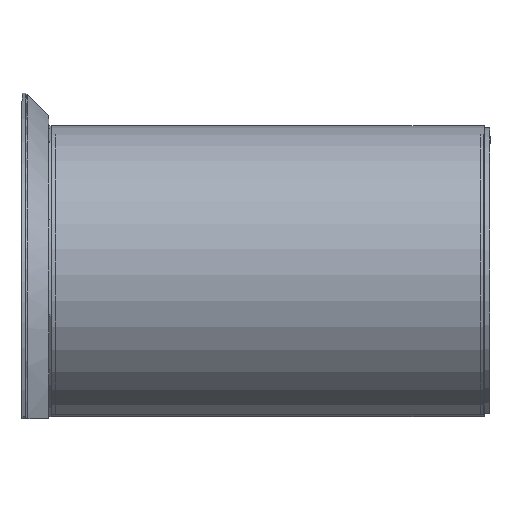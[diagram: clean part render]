
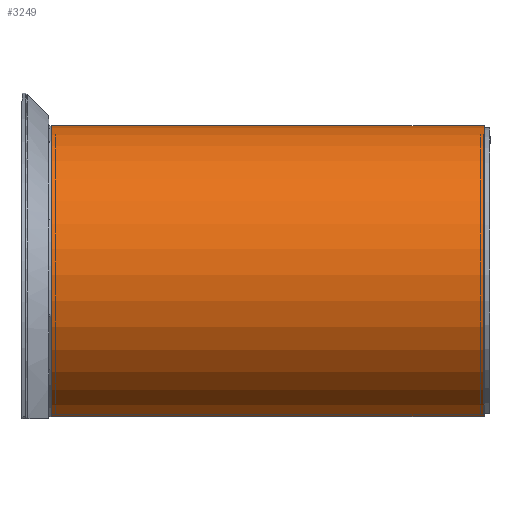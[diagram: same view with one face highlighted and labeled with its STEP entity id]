
A CAD part, left-side view. The second image highlights one B-rep face of the part: STEP entity #3249.
In plain terms, the highlighted cylindrical face has radius 230 mm (diameter 460 mm), a partial arc.
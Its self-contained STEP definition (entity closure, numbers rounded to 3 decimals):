
#197 = CARTESIAN_POINT ( 'NONE',  ( 2., 665., 0. ) ) ;
#233 = CARTESIAN_POINT ( 'NONE',  ( 2., 0., 230. ) ) ;
#422 = DIRECTION ( 'NONE',  ( 0., -1., 0. ) ) ;
#965 = DIRECTION ( 'NONE',  ( 0., 0., 1. ) ) ;
#1269 = EDGE_CURVE ( 'NONE', #4167, #2493, #4498, .T. ) ;
#1296 = EDGE_CURVE ( 'NONE', #5389, #2493, #6514, .T. ) ;
#1445 = EDGE_LOOP ( 'NONE', ( #8042, #6322, #2607, #5835 ) ) ;
#1609 = LINE ( 'NONE', #4333, #3704 ) ;
#1897 = CIRCLE ( 'NONE', #2174, 230. ) ;
#1946 = DIRECTION ( 'NONE',  ( 0., -1., 0. ) ) ;
#1958 = CARTESIAN_POINT ( 'NONE',  ( 2., 665., 230. ) ) ;
#2174 = AXIS2_PLACEMENT_3D ( 'NONE', #197, #2176, #5378 ) ;
#2176 = DIRECTION ( 'NONE',  ( 0., 1., 0. ) ) ;
#2480 = DIRECTION ( 'NONE',  ( 0., 0., -1. ) ) ;
#2493 = VERTEX_POINT ( 'NONE', #2746 ) ;
#2607 = ORIENTED_EDGE ( 'NONE', *, *, #2920, .F. ) ;
#2746 = CARTESIAN_POINT ( 'NONE',  ( 2., 0., -230. ) ) ;
#2920 = EDGE_CURVE ( 'NONE', #6369, #5389, #1897, .T. ) ;
#3249 = ADVANCED_FACE ( 'NONE', ( #6881 ), #5715, .T. ) ;
#3704 = VECTOR ( 'NONE', #422, 1000. ) ;
#4167 = VERTEX_POINT ( 'NONE', #233 ) ;
#4245 = CARTESIAN_POINT ( 'NONE',  ( 2., 0., 0. ) ) ;
#4333 = CARTESIAN_POINT ( 'NONE',  ( 2., 665., 230. ) ) ;
#4498 = CIRCLE ( 'NONE', #6834, 230. ) ;
#4948 = AXIS2_PLACEMENT_3D ( 'NONE', #6231, #7638, #2480 ) ;
#5378 = DIRECTION ( 'NONE',  ( 0., 0., 1. ) ) ;
#5389 = VERTEX_POINT ( 'NONE', #6492 ) ;
#5715 = CYLINDRICAL_SURFACE ( 'NONE', #4948, 230. ) ;
#5835 = ORIENTED_EDGE ( 'NONE', *, *, #6654, .T. ) ;
#6231 = CARTESIAN_POINT ( 'NONE',  ( 2., 665., 0. ) ) ;
#6322 = ORIENTED_EDGE ( 'NONE', *, *, #1296, .F. ) ;
#6369 = VERTEX_POINT ( 'NONE', #1958 ) ;
#6439 = CARTESIAN_POINT ( 'NONE',  ( 2., 665., -230. ) ) ;
#6492 = CARTESIAN_POINT ( 'NONE',  ( 2., 665., -230. ) ) ;
#6514 = LINE ( 'NONE', #6439, #6986 ) ;
#6654 = EDGE_CURVE ( 'NONE', #6369, #4167, #1609, .T. ) ;
#6834 = AXIS2_PLACEMENT_3D ( 'NONE', #4245, #6875, #965 ) ;
#6875 = DIRECTION ( 'NONE',  ( 0., 1., 0. ) ) ;
#6881 = FACE_OUTER_BOUND ( 'NONE', #1445, .T. ) ;
#6986 = VECTOR ( 'NONE', #1946, 1000. ) ;
#7638 = DIRECTION ( 'NONE',  ( 0., -1., 0. ) ) ;
#8042 = ORIENTED_EDGE ( 'NONE', *, *, #1269, .T. ) ;
